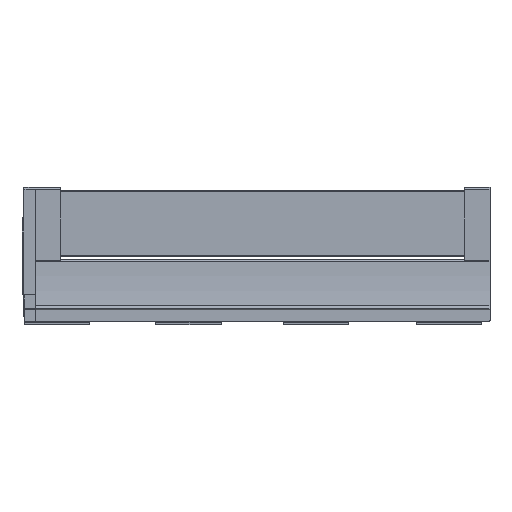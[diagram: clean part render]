
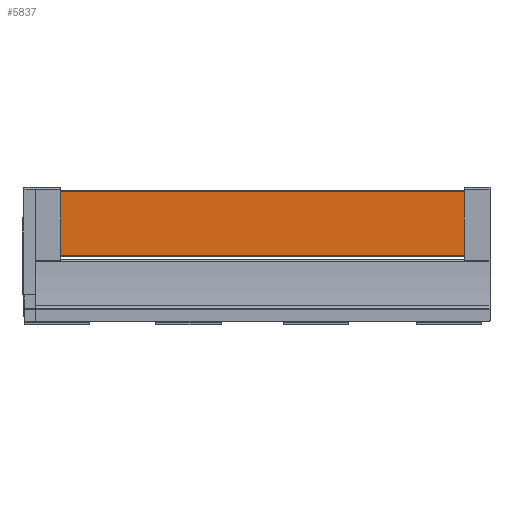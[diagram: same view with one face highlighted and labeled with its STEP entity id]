
A CAD part, left-side view. The second image highlights one B-rep face of the part: STEP entity #5837.
In plain terms, the highlighted planar face has unit normal (-1, 0, 0).
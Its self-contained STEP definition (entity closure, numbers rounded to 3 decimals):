
#162 = ORIENTED_EDGE ( 'NONE', *, *, #4741, .T. ) ;
#163 = ORIENTED_EDGE ( 'NONE', *, *, #6080, .T. ) ;
#164 = ORIENTED_EDGE ( 'NONE', *, *, #5141, .F. ) ;
#165 = ORIENTED_EDGE ( 'NONE', *, *, #5281, .F. ) ;
#588 = EDGE_LOOP ( 'NONE', ( #162, #163, #164, #165 ) ) ;
#1392 = LINE ( 'NONE', #2422, #1393 ) ;
#1393 = VECTOR ( 'NONE', #2424, 1000. ) ;
#1723 = VERTEX_POINT ( 'NONE', #2133 ) ;
#1733 = VERTEX_POINT ( 'NONE', #2143 ) ;
#1812 = VERTEX_POINT ( 'NONE', #2222 ) ;
#1824 = VERTEX_POINT ( 'NONE', #2234 ) ;
#2133 = CARTESIAN_POINT ( 'NONE',  ( -9.6, 35.3, 142.798 ) ) ;
#2143 = CARTESIAN_POINT ( 'NONE',  ( -9.6, 35.3, 55.298 ) ) ;
#2222 = CARTESIAN_POINT ( 'NONE',  ( -9.6, 589.3, 142.798 ) ) ;
#2234 = CARTESIAN_POINT ( 'NONE',  ( -9.6, 589.3, 55.298 ) ) ;
#2422 = CARTESIAN_POINT ( 'NONE',  ( -9.6, 589.3, 142.798 ) ) ;
#2424 = DIRECTION ( 'NONE',  ( 0., 0., -1. ) ) ;
#2924 = CARTESIAN_POINT ( 'NONE',  ( -9.6, 35.3, 142.798 ) ) ;
#2925 = DIRECTION ( 'NONE',  ( 0., 0., -1. ) ) ;
#3008 = FACE_OUTER_BOUND ( 'NONE', #588, .T. ) ;
#3098 = VECTOR ( 'NONE', #2925, 1000. ) ;
#3099 = LINE ( 'NONE', #2924, #3098 ) ;
#3625 = CARTESIAN_POINT ( 'NONE',  ( -9.6, 745., 142.798 ) ) ;
#3639 = DIRECTION ( 'NONE',  ( 0., -1., 0. ) ) ;
#3789 = PLANE ( 'NONE',  #4901 ) ;
#3793 = CARTESIAN_POINT ( 'NONE',  ( -9.6, 745., 142.798 ) ) ;
#3799 = DIRECTION ( 'NONE',  ( -1., 0., 0. ) ) ;
#3800 = DIRECTION ( 'NONE',  ( 0., 0., -1. ) ) ;
#4580 = CARTESIAN_POINT ( 'NONE',  ( -9.6, 745., 55.298 ) ) ;
#4581 = DIRECTION ( 'NONE',  ( 0., -1., 0. ) ) ;
#4741 = EDGE_CURVE ( 'NONE', #1812, #1824, #1392, .T. ) ;
#4901 = AXIS2_PLACEMENT_3D ( 'NONE', #3793, #3799, #3800 ) ;
#5141 = EDGE_CURVE ( 'NONE', #1723, #1733, #3099, .T. ) ;
#5281 = EDGE_CURVE ( 'NONE', #1812, #1723, #6282, .T. ) ;
#5547 = VECTOR ( 'NONE', #4581, 1000. ) ;
#5548 = LINE ( 'NONE', #4580, #5547 ) ;
#5837 = ADVANCED_FACE ( 'NONE', ( #3008 ), #3789, .T. ) ;
#6080 = EDGE_CURVE ( 'NONE', #1824, #1733, #5548, .T. ) ;
#6260 = VECTOR ( 'NONE', #3639, 1000. ) ;
#6282 = LINE ( 'NONE', #3625, #6260 ) ;
